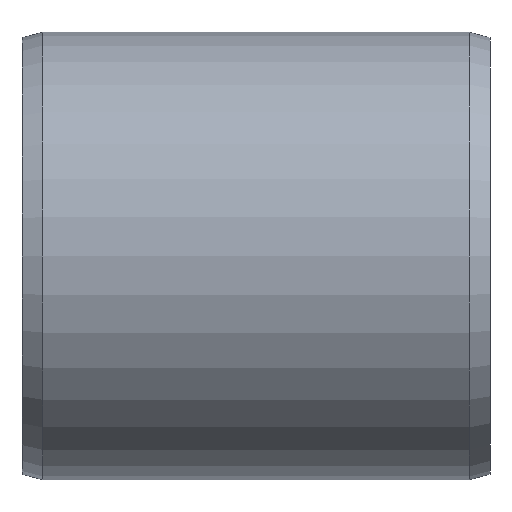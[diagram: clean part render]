
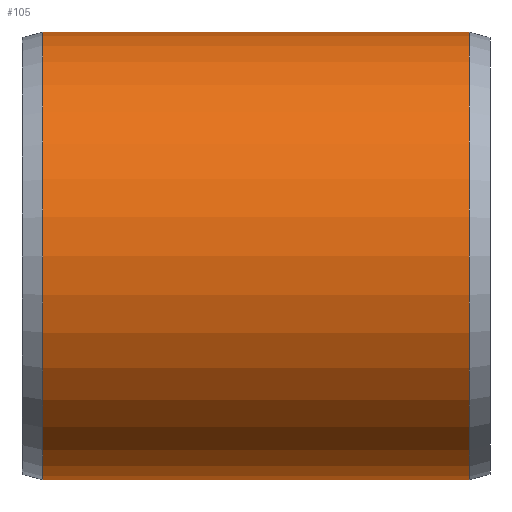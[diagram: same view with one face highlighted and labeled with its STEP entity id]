
A CAD part, front view. The second image highlights one B-rep face of the part: STEP entity #105.
In plain terms, the highlighted cylindrical face has radius 11 mm (diameter 22 mm), a full revolution.
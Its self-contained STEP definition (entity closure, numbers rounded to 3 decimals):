
#24=CYLINDRICAL_SURFACE('',#154,11.);
#31=FACE_BOUND('',#54,.T.);
#39=FACE_OUTER_BOUND('',#53,.T.);
#53=EDGE_LOOP('',(#93));
#54=EDGE_LOOP('',(#94));
#63=CIRCLE('',#153,11.);
#64=CIRCLE('',#155,11.);
#71=VERTEX_POINT('',#216);
#72=VERTEX_POINT('',#219);
#79=EDGE_CURVE('',#71,#71,#63,.T.);
#80=EDGE_CURVE('',#72,#72,#64,.T.);
#93=ORIENTED_EDGE('',*,*,#79,.T.);
#94=ORIENTED_EDGE('',*,*,#80,.F.);
#105=ADVANCED_FACE('',(#39,#31),#24,.T.);
#153=AXIS2_PLACEMENT_3D('',#217,#186,#187);
#154=AXIS2_PLACEMENT_3D('',#218,#188,#189);
#155=AXIS2_PLACEMENT_3D('',#220,#190,#191);
#186=DIRECTION('center_axis',(1.,0.,0.));
#187=DIRECTION('ref_axis',(0.,0.,-1.));
#188=DIRECTION('center_axis',(1.,0.,0.));
#189=DIRECTION('ref_axis',(0.,1.,0.));
#190=DIRECTION('center_axis',(1.,0.,0.));
#191=DIRECTION('ref_axis',(0.,0.,-1.));
#216=CARTESIAN_POINT('',(-10.48,11.,0.));
#217=CARTESIAN_POINT('Origin',(-10.48,0.,0.));
#218=CARTESIAN_POINT('Origin',(0.,0.,0.));
#219=CARTESIAN_POINT('',(10.48,11.,0.));
#220=CARTESIAN_POINT('Origin',(10.48,0.,0.));
